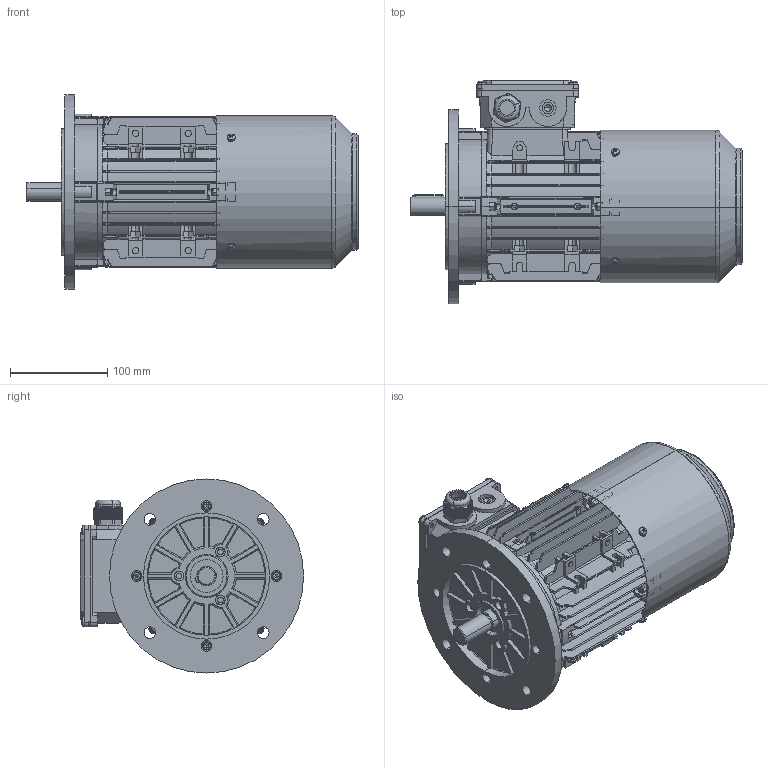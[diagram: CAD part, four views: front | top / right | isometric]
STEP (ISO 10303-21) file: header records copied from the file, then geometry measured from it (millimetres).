
FILE_DESCRIPTION (( 'STEP AP203' ), '1' );
FILE_NAME ('TB80 B5（风罩不带手柄孔）.STEP', '2021-10-21T06:45:28', ( '' ), ( '' ), 'SwSTEP 2.0', 'SolidWorks 2014', '' );
FILE_SCHEMA (( 'CONFIG_CONTROL_DESIGN' ));
Length unit declared in the file: millimetre
Products named in the file (15): Plain parallel keys_GB_CONNECTING_PIECE_KEYS_CSK 6X32; TB80 B5（风罩不带手柄孔）; 80-100堤盄蹟杶; TA80 B5傷裔1; Cross recessed thread forming screws GB_GB_CROSS_SCREWS_TYPE138 M5X12-N; TB80綴傷裔1; 陔諉盄碟釱80-100; Hexagon socket head cap screws GB_GB_FASTENER_SCREWS_HSHCS M5X25-N; TB80蛌粣; Cross recessed thread forming screws GB_GB_CROSS_SCREWS_TYPE138 M4X12-N; 80怢宒瑞珔; T80儂褲; 陔諉盄碟裔80-100; Hexagon nuts grade C GB_GB_FASTENER_NUT_SNC1 M5-N; TB80瑞欶ㄗ祥湍忒梟謂ㄘ
Assembly tree (34 placements, depth 2):
  TB80 B5（风罩不带手柄孔）
    T80儂褲
    80-100堤盄蹟杶
    Hexagon socket head cap screws GB_GB_FASTENER_SCREWS_HSHCS M5X25-N  x8
    Hexagon nuts grade C GB_GB_FASTENER_NUT_SNC1 M5-N  x8
    Cross recessed thread forming screws GB_GB_CROSS_SCREWS_TYPE138 M5X12-N  x4
    Cross recessed thread forming screws GB_GB_CROSS_SCREWS_TYPE138 M4X12-N  x4
    Plain parallel keys_GB_CONNECTING_PIECE_KEYS_CSK 6X32
    陔諉盄碟釱80-100
    陔諉盄碟裔80-100
    TA80 B5傷裔1
    TB80蛌粣
    TB80瑞欶ㄗ祥湍忒梟謂ㄘ
    TB80綴傷裔1
    80怢宒瑞珔
Bounding box: 342 x 230 x 200 mm (x, y, z)
Volume: 1049539.5 mm3; surface area: 725356.9 mm2
Topology: 34 solids, 34 shells, 3846 faces, 10098 edges, 6388 vertices
Faces by surface type: plane 2032, cylinder 1006, cone 285, bspline 226, torus 197, sphere 100
Entity records: 116970 total; most frequent: CARTESIAN_POINT 32242, ORIENTED_EDGE 18072, DIRECTION 16237, EDGE_CURVE 9036, VERTEX_POINT 5753, AXIS2_PLACEMENT_3D 5631, LINE 4975, VECTOR 4975
